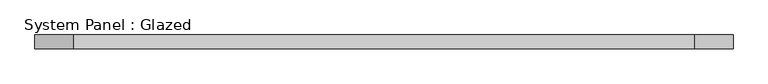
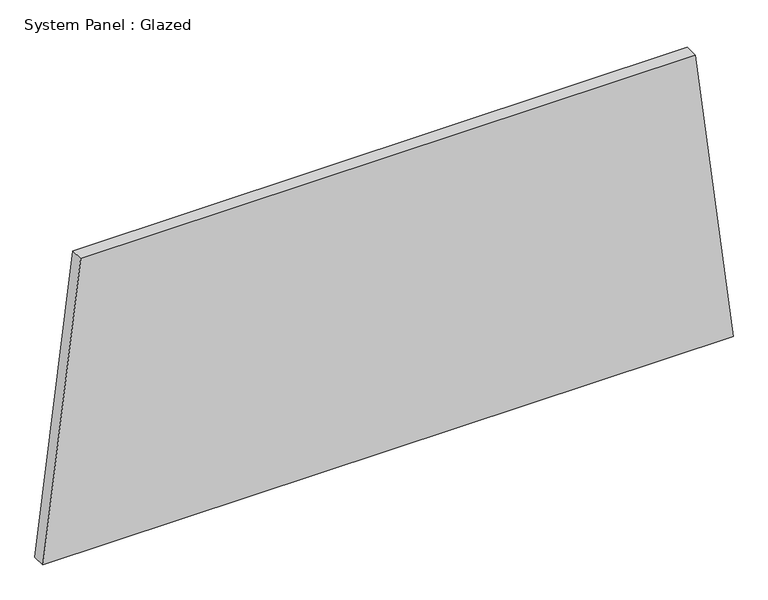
"""IFC4 building model written with IfcOpenShell, lengths in millimetres: plate geometry, System Panel : Glazed."""

from ifc_helpers import new_model, si_unit, frame, origin, place, context, project, spatial, polyline, outline, extrude, source, transform, mapped, element, save


def system_panel_glazed_e8fc26b0(model_context):
    return source(origin(), model_context, "Body", "SweptSolid", [
        extrude(outline(polyline([(0.0, -643.553185), (0.0, 643.553185), (579.7498878, 573.1152479), (579.7498878, -573.1152479), (0.0, -643.553185)])), frame((0.0, -44.45, 0.0), z_axis=(0.0, 1.0, 0.0), x_axis=(0.0, 0.0, 1.0)), (0.0, 0.0, 1.0), 25.4),
    ])


if __name__ == "__main__":
    model = new_model("IFC4")
    model_context = context("Model", 3, world=origin())
    ifc_project = project(units=[si_unit("LENGTHUNIT", "METRE", prefix="MILLI")], contexts=[model_context])
    site = spatial("IfcSite", under=ifc_project)
    building = spatial("IfcBuilding", under=site)
    placement = place(None, origin())
    system_panel_glazed_shape = system_panel_glazed_e8fc26b0(model_context)
    element("IfcPlate", 1, ObjectType="System Panel : Glazed", at=placement, inside=building, context=model_context, shape_type="MappedRepresentation", body=[
        mapped(system_panel_glazed_shape, transform((0.0, 0.0, 0.0), x_axis=(1.0, 0.0, 0.0), y_axis=(0.0, 1.0, 0.0), z_axis=(0.0, 0.0, 1.0))),
    ])
    save(model, "model.ifc")
